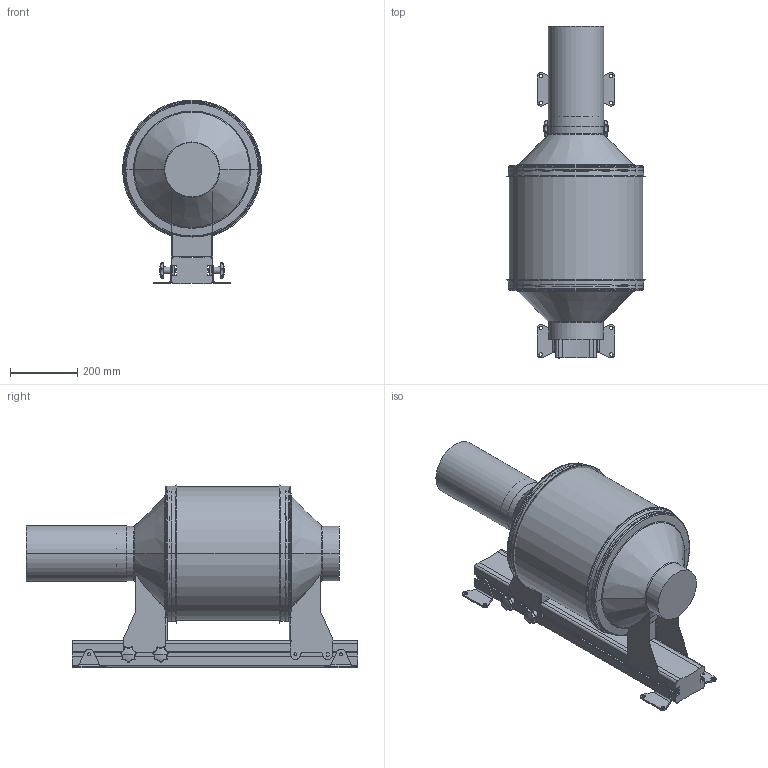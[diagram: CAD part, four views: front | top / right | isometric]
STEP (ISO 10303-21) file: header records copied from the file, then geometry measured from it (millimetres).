
FILE_DESCRIPTION((''),'2;1');
FILE_NAME('112020','2018-01-23T',('Tomas Bellgran'),(''),'CREO PARAMETRIC BY PTC INC, 2016130','CREO PARAMETRIC BY PTC INC, 2016130','');
FILE_SCHEMA(('AUTOMOTIVE_DESIGN { 1 0 10303 214 1 1 1 1 }'));
Length unit declared in the file: millimetre
Products named in the file (14): 112175; 112152; 112153; 112144; 112172; 112180; 112176; 112148; 112158; G_ANCHOR_NUT; 136808; 112082; 126056_L; 112020
Assembly tree (27 placements, depth 3):
  112020
    112175
    112144  x2
      112152
      112153
    112148
      112172
      112180  x2
      112176
    112158  x4
    G_ANCHOR_NUT  x4
    136808  x4
    112082  x4
    126056_L
Bounding box: 414 x 988 x 547 mm (x, y, z)
Volume: 36962586.3 mm3; surface area: 3650854 mm2
Topology: 26 solids, 26 shells, 746 faces, 1818 edges, 1136 vertices
Faces by surface type: cylinder 282, plane 220, torus 112, bspline 96, cone 28, sphere 8
Entity records: 19572 total; most frequent: CARTESIAN_POINT 5497, DIRECTION 1589, ORIENTED_EDGE 1488, EDGE_CURVE 744, PROPERTY_DEFINITION 702, REPRESENTATION 691, PROPERTY_DEFINITION_REPRESENTATION 691, PRESENTATION_STYLE_ASSIGNMENT 629
